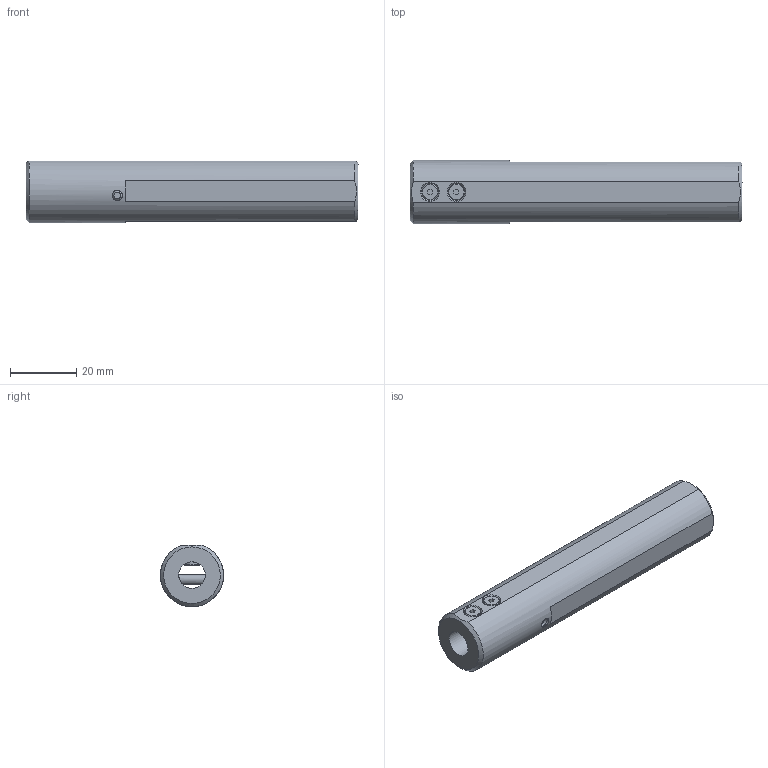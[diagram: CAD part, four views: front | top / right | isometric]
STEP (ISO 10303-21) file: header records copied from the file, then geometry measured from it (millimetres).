
FILE_DESCRIPTION(/* description */ (''),/* implementation_level */ '2;1');
FILE_NAME(/* name */ 'WEBDA_E00021502_00_Kunde.stp',/* time_stamp */ '2023-02-01T09:31:30+01:00',/* author */ (''),/* organization */ (''),/* preprocessor_version */ 'ST-DEVELOPER v18.102',/* originating_system */ 'SIEMENS PLM Software NX 2027',/* authorisation */ '');
FILE_SCHEMA (('AUTOMOTIVE_DESIGN { 1 0 10303 214 3 1 1 1 }'));
Length unit declared in the file: millimetre
Products named in the file (1): 00_objects
Bounding box: 100 x 19.05 x 18.55 mm (x, y, z)
Volume: 22278.7 mm3; surface area: 9125.1 mm2
Topology: 1 solids, 1 shells, 61 faces, 144 edges, 96 vertices
Faces by surface type: plane 33, cylinder 16, cone 12
Full cylindrical faces by diameter (mm): 3 x1, 3.01 x2, 3.1 x4, 5 x2, 8 x1, 8.6 x1
Entity records: 1933 total; most frequent: CARTESIAN_POINT 673, DIRECTION 247, ORIENTED_EDGE 210, EDGE_CURVE 105, EDGE_LOOP 100, AXIS2_PLACEMENT_3D 100, VERTEX_POINT 81, FACE_BOUND 72
